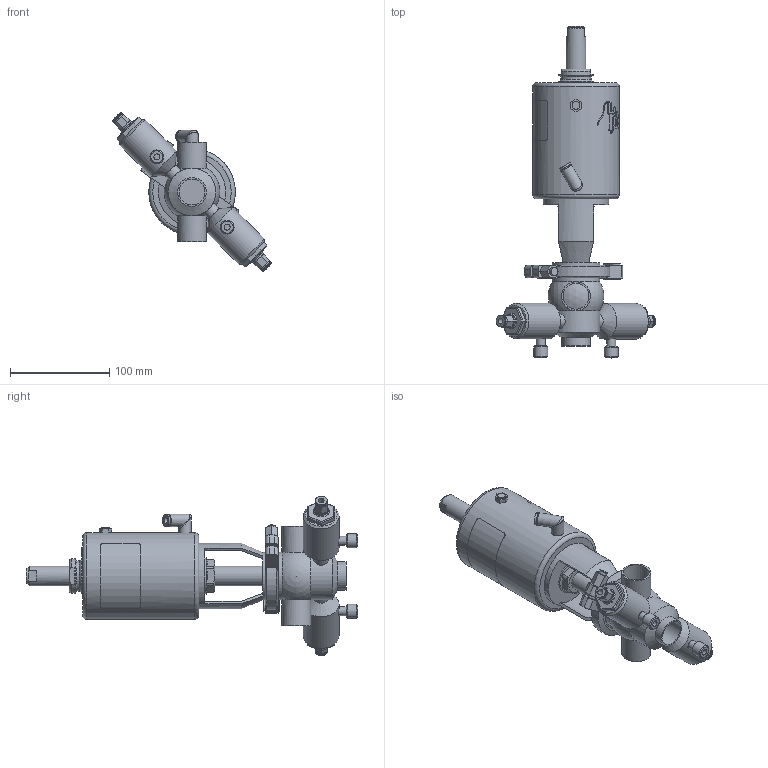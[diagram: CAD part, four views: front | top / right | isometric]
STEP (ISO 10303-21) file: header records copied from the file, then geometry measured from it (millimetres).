
FILE_DESCRIPTION (( 'STEP AP214' ), '1' );
FILE_NAME ('INNOVA D T W DIN 025 T1 AS NC_10.246.16.0002.STEP', '2024-08-08T09:12:23', ( '' ), ( '' ), 'SwSTEP 2.0', 'SolidWorks 2023', '' );
FILE_SCHEMA (( 'AUTOMOTIVE_DESIGN' ));
Length unit declared in the file: millimetre
Products named in the file (5): 10.240.15.0001_DN 025; 10.240.15.0010_DN 025; 10.240.15.0014_T1 AS P0; 10.246.15.0002_DIN 025; INNOVA D T W DIN 025 T1 AS NC_10.246.16.0002
Assembly tree (4 placements, depth 2):
  INNOVA D T W DIN 025 T1 AS NC_10.246.16.0002
    10.246.15.0002_DIN 025
    10.240.15.0010_DN 025
    10.240.15.0014_T1 AS P0
    10.240.15.0001_DN 025
Bounding box: 160.65 x 334 x 160.65 mm (x, y, z)
Volume: 1079146.7 mm3; surface area: 135588.8 mm2
Topology: 4 solids, 4 shells, 430 faces, 1092 edges, 707 vertices
Faces by surface type: plane 225, cylinder 86, bspline 80, cone 31, sphere 4, torus 4
Full cylindrical faces by diameter (mm): 6 x4, 6.15 x1, 8 x3, 8.5 x1, 9 x2, 10 x2, 10.5 x1, 12 x4, 12.5 x3, 14 x4, 15 x2, 16 x1, 20 x2, 26 x3, 29 x3, 31 x1, 34.5 x2, 36 x2, 36.5 x1, 48 x3, 59.7 x2, 66 x1, 87 x1
Entity records: 22186 total; most frequent: CARTESIAN_POINT 11000, ORIENTED_EDGE 1972, DIRECTION 1651, EDGE_CURVE 986, VERTEX_POINT 679, AXIS2_PLACEMENT_3D 623, EDGE_LOOP 553, FACE_OUTER_BOUND 485
